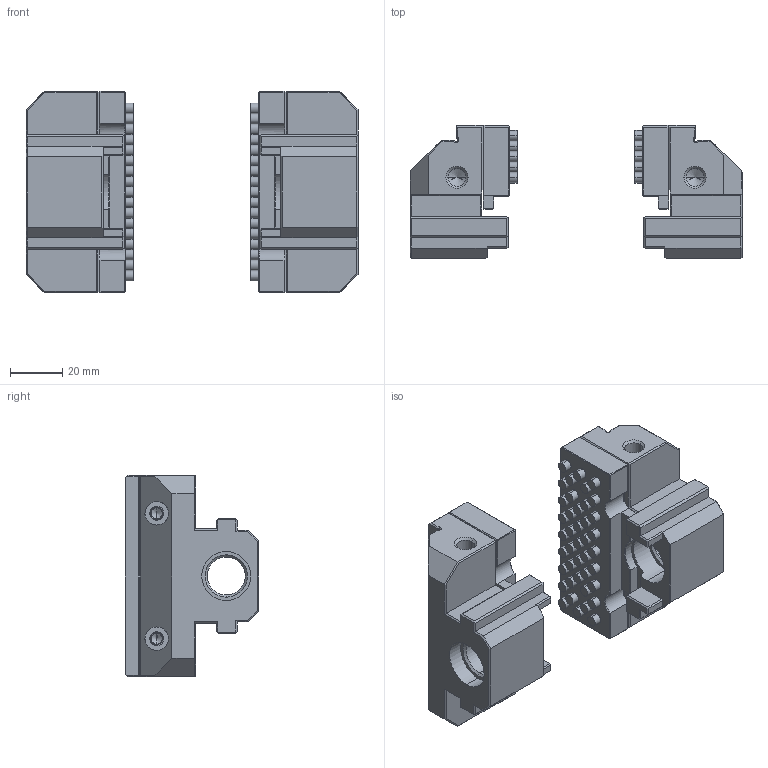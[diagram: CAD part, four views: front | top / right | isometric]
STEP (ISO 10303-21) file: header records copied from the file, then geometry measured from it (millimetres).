
FILE_DESCRIPTION (( 'STEP AP203' ), '1' );
FILE_NAME ('42077.STEP', '2016-11-29T09:00:36', ( '' ), ( '' ), 'SwSTEP 2.0', 'SolidWorks 2015', '' );
FILE_SCHEMA (( 'CONFIG_CONTROL_DESIGN' ));
Length unit declared in the file: millimetre
Products named in the file (2): 42077-1101; 42077
Assembly tree (2 placements, depth 2):
  42077
    42077-1101  x2
Bounding box: 127 x 51 x 77 mm (x, y, z)
Volume: 167562.9 mm3; surface area: 47772 mm2
Topology: 4 solids, 4 shells, 640 faces, 1442 edges, 890 vertices
Faces by surface type: plane 370, cylinder 218, cone 52
Entity records: 9027 total; most frequent: DIRECTION 1583, CARTESIAN_POINT 1525, ORIENTED_EDGE 1426, EDGE_CURVE 713, AXIS2_PLACEMENT_3D 559, LINE 465, VECTOR 465, VERTEX_POINT 445
